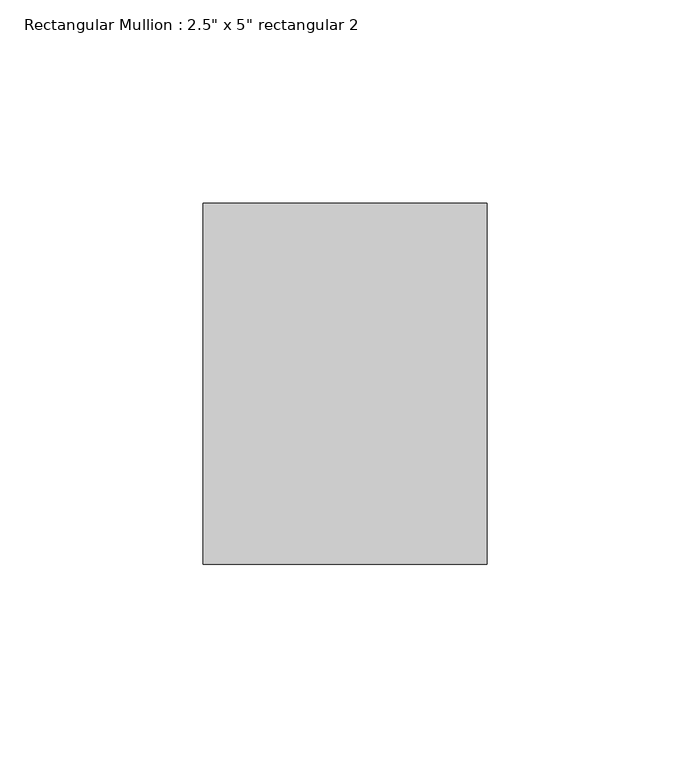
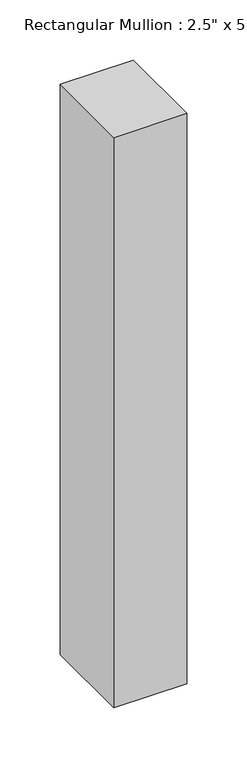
"""IFC4 building model written with IfcOpenShell, lengths in millimetres: member geometry."""

import ifcopenshell
import ifcopenshell.guid

model = None  # the IFC model being written
_history = None  # IfcOwnerHistory: only IFC2X3 demands one
_inside = {}  # id of a spatial element -> (the spatial element, [elements in it])
_under = {}  # id of a project, library or spatial element -> (it, [spatial elements below it])
_declared = {}  # id of a project -> (the project, [libraries it declares])
_typed = {}  # id of a type object -> (the type object, [elements of that type])
_made_of = {}  # id of a material, layer set ... -> (it, [elements and type objects made of it])


def new_model(schema):
    """Start an empty IFC model of exactly this schema.

    Asked for "IFC4X3", IfcOpenShell would pick the latest addendum, in which some entities
    have other attributes; the version numbers below select the first issue.
    IFC2X3 requires an IfcOwnerHistory on every rooted entity: one is made here for all.
    """
    global model, _history
    if schema == "IFC4X3":
        model = ifcopenshell.file(schema_version=(4, 3, 0, 0))
    else:
        model = ifcopenshell.file(schema=schema)
    _inside.clear()
    _under.clear()
    _declared.clear()
    _typed.clear()
    _made_of.clear()
    _history = None
    if model.schema == "IFC2X3":
        org = make("IfcOrganization", Name="unknown")
        user = make(
            "IfcPersonAndOrganization",
            ThePerson=make("IfcPerson", FamilyName="unknown"),
            TheOrganization=org,
        )
        app = make(
            "IfcApplication",
            ApplicationDeveloper=org,
            Version="unknown",
            ApplicationFullName="unknown",
            ApplicationIdentifier="unknown",
        )
        _history = make(
            "IfcOwnerHistory",
            OwningUser=user,
            OwningApplication=app,
            ChangeAction="ADDED",
            CreationDate=0,
        )
    return model


def make(cls, **values):
    """One entity of the class cls with the attributes given. An attribute that is None is left unset."""
    return model.create_entity(
        cls, **{name: value for name, value in values.items() if value is not None}
    )


def rooted(cls, **values):
    """An entity with a GlobalId (a new one), such as an element, a storey or a relation."""
    return make(cls, GlobalId=ifcopenshell.guid.new(), OwnerHistory=_history, **values)


def si_unit(unit_type, name, prefix=None):
    """IfcSIUnit, for example si_unit("LENGTHUNIT", "METRE", prefix="MILLI")."""
    return make("IfcSIUnit", UnitType=unit_type, Prefix=prefix, Name=name)


def assignment(units):
    """IfcUnitAssignment: the units of a project."""
    return None if units is None else make("IfcUnitAssignment", Units=units)


def point(xyz):
    """IfcCartesianPoint."""
    return None if xyz is None else make("IfcCartesianPoint", Coordinates=xyz)


def direction(xyz):
    """IfcDirection."""
    return None if xyz is None else make("IfcDirection", DirectionRatios=xyz)


def frame(location, z_axis=None, x_axis=None):
    """IfcAxis2Placement3D, a coordinate frame: its origin and axes. An axis left out is left unset."""
    return make(
        "IfcAxis2Placement3D",
        Location=point(location),
        Axis=direction(z_axis),
        RefDirection=direction(x_axis),
    )


def origin():
    """The frame at (0, 0, 0) with its axes left unset."""
    return frame((0.0, 0.0, 0.0))


def place(relative_to, where):
    """IfcLocalPlacement: puts the frame where relative to a parent placement (None: the world)."""
    return make(
        "IfcLocalPlacement", PlacementRelTo=relative_to, RelativePlacement=where
    )


def context(
    kind, dimensions, precision=None, world=None, true_north=None, identifier=None
):
    """IfcGeometricRepresentationContext, for example the 3D "Model" context."""
    return make(
        "IfcGeometricRepresentationContext",
        ContextIdentifier=identifier,
        ContextType=kind,
        CoordinateSpaceDimension=dimensions,
        Precision=precision,
        WorldCoordinateSystem=world,
        TrueNorth=true_north,
    )


def project(units=None, contexts=None):
    """IfcProject with its units and contexts."""
    return rooted(
        "IfcProject",
        Name="project",
        RepresentationContexts=contexts,
        UnitsInContext=assignment(units),
    )


def spatial(cls, under=None, at=None, **own):
    """A site, building, storey or space (cls), placed at a placement, below another one or the project."""
    s = rooted(cls, ObjectPlacement=at, **own)
    if under is not None:
        _under.setdefault(under.id(), (under, []))[1].append(s)
    return s


def polyline(points):
    """IfcPolyline through the points."""
    return make("IfcPolyline", Points=[point(p) for p in points])


def outline(outer, holes=None, kind="AREA"):
    """IfcArbitraryClosedProfileDef: a profile drawn as a closed curve; with holes, ...WithVoids."""
    if holes is None:
        return make("IfcArbitraryClosedProfileDef", ProfileType=kind, OuterCurve=outer)
    return make(
        "IfcArbitraryProfileDefWithVoids",
        ProfileType=kind,
        OuterCurve=outer,
        InnerCurves=holes,
    )


def extrude(swept, where, along, depth):
    """IfcExtrudedAreaSolid: the profile swept, set in the frame where, extruded along a direction by depth."""
    return make(
        "IfcExtrudedAreaSolid",
        SweptArea=swept,
        Position=where,
        ExtrudedDirection=direction(along),
        Depth=depth,
    )


def shape(context_of_items, identifier, shape_type, items):
    """IfcShapeRepresentation: the items that make up one representation, for example the "Body"."""
    return make(
        "IfcShapeRepresentation",
        ContextOfItems=context_of_items,
        RepresentationIdentifier=identifier,
        RepresentationType=shape_type,
        Items=items,
    )


def source(mapping_origin, context_of_items, identifier, shape_type, items):
    """IfcRepresentationMap: a shape defined once, which mapped items show again and again."""
    return make(
        "IfcRepresentationMap",
        MappingOrigin=mapping_origin,
        MappedRepresentation=shape(context_of_items, identifier, shape_type, items),
    )


def transform(
    local_origin,
    x_axis=None,
    y_axis=None,
    z_axis=None,
    scale=None,
    scale2=None,
    scale3=None,
    uniform=True,
):
    """IfcCartesianTransformationOperator3D, or its non-uniform kind. x_axis, y_axis, z_axis: its Axis1, 2, 3."""
    if uniform:
        return make(
            "IfcCartesianTransformationOperator3D",
            Axis1=direction(x_axis),
            Axis2=direction(y_axis),
            LocalOrigin=point(local_origin),
            Scale=scale,
            Axis3=direction(z_axis),
        )
    return make(
        "IfcCartesianTransformationOperator3DnonUniform",
        Axis1=direction(x_axis),
        Axis2=direction(y_axis),
        LocalOrigin=point(local_origin),
        Scale=scale,
        Axis3=direction(z_axis),
        Scale2=scale2,
        Scale3=scale3,
    )


def mapped(mapping_source, mapping_target):
    """IfcMappedItem: shows the shape of a source again, moved by a transform."""
    return make(
        "IfcMappedItem", MappingSource=mapping_source, MappingTarget=mapping_target
    )


def made_of(thing, what):
    """Note that an element or type object is made of a material, layer set ...; save() writes the relation."""
    if what is not None:
        _made_of.setdefault(what.id(), (what, []))[1].append(thing)
    return thing


def element(
    cls,
    number,
    at=None,
    inside=None,
    cuts=None,
    type_object=None,
    material=None,
    context=None,
    identifier="Body",
    shape_type=None,
    held_by="IfcProductDefinitionShape",
    body=None,
    shapes=None,
    **own,
):
    """One element of the class cls, such as IfcWall. Its Tag is "e" and its number.

    at: its placement. inside: the storey or other place that contains it. cuts: it is an
    opening in that element (IfcRelVoidsElement). A single representation is given by context,
    identifier, shape_type and body (its items); several are given by shapes. held_by: the class
    of the entity that holds the representations. save() writes the other relations.
    """
    e = rooted(cls, Tag="e%d" % number, ObjectPlacement=at, **own)
    if body is not None:
        shapes = [shape(context, identifier, shape_type, body)]
    if shapes is not None:
        e.Representation = make(held_by, Representations=shapes)
    if inside is not None:
        _inside.setdefault(inside.id(), (inside, []))[1].append(e)
    if cuts is not None:
        rooted(
            "IfcRelVoidsElement", RelatingBuildingElement=cuts, RelatedOpeningElement=e
        )
    if type_object is not None:
        _typed.setdefault(type_object.id(), (type_object, []))[1].append(e)
    return made_of(e, material)


def aggregate(whole, parts):
    """IfcRelAggregates: a whole, such as a stair, and the parts it consists of."""
    return rooted("IfcRelAggregates", RelatingObject=whole, RelatedObjects=parts)


def save(model, path):
    """Write the relations noted so far, then the file.

    IfcRelAggregates (storeys below a building ...), IfcRelContainedInSpatialStructure (elements
    in a storey), IfcRelDefinesByType, IfcRelAssociatesMaterial and IfcRelDeclares: one each for
    every whole, place, type object, material and project.
    """
    for whole, parts in _under.values():
        aggregate(whole, parts)
    for where, things in _inside.values():
        rooted(
            "IfcRelContainedInSpatialStructure",
            RelatedElements=things,
            RelatingStructure=where,
        )
    for kind, things in _typed.values():
        rooted("IfcRelDefinesByType", RelatedObjects=things, RelatingType=kind)
    for what, things in _made_of.values():
        rooted("IfcRelAssociatesMaterial", RelatedObjects=things, RelatingMaterial=what)
    for by, libraries in _declared.values():
        rooted("IfcRelDeclares", RelatingContext=by, RelatedDefinitions=libraries)
    model.write(path)


def member_dbbe5297(model_context):
    return source(origin(), model_context, "Body", "SweptSolid", [
        extrude(outline(polyline([(38.1, 44.45), (38.1, -44.45), (-31.75, -44.45), (-31.75, 44.45), (38.1, 44.45)])), frame((0.0, 0.0, -577.7274401), z_axis=(0.0, 0.0, 1.0), x_axis=(1.0, 0.0, 0.0)), (0.0, 0.0, 1.0), 577.7274401),
    ])


if __name__ == "__main__":
    model = new_model("IFC4")
    model_context = context("Model", 3, world=origin())
    ifc_project = project(units=[si_unit("LENGTHUNIT", "METRE", prefix="MILLI")], contexts=[model_context])
    site = spatial("IfcSite", under=ifc_project)
    building = spatial("IfcBuilding", under=site)
    placement = place(None, origin())
    member_shape = member_dbbe5297(model_context)
    element("IfcMember", 1, ObjectType="Rectangular Mullion : 2.5\" x 5\" rectangular 2", at=placement, inside=building, context=model_context, shape_type="MappedRepresentation", body=[
        mapped(member_shape, transform((0.0, 0.0, 0.0), x_axis=(1.0, 0.0, 0.0), y_axis=(0.0, 1.0, 0.0), z_axis=(0.0, 0.0, 1.0))),
    ])
    save(model, "model.ifc")
